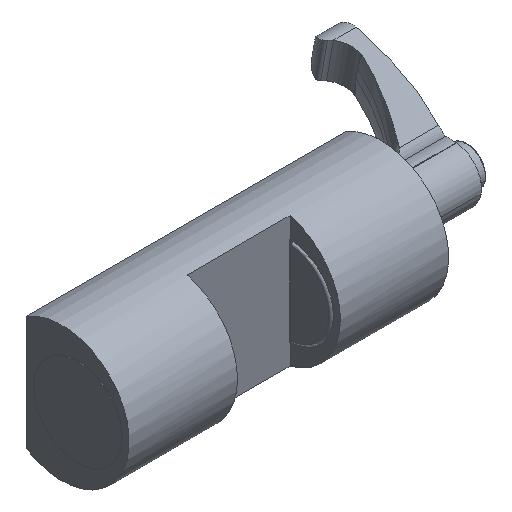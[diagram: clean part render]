
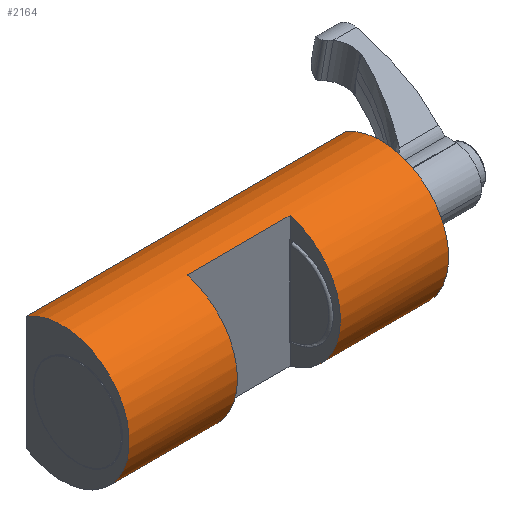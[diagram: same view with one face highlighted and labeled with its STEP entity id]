
A CAD part, isometric view. The second image highlights one B-rep face of the part: STEP entity #2164.
In plain terms, the highlighted cylindrical face has radius 19 mm (diameter 38 mm), a partial arc.
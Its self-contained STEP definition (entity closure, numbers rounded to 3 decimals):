
#1=CARTESIAN_POINT('',(-45.,4.5,0.));
#2=DIRECTION('',(1.,0.,0.));
#3=DIRECTION('',(0.,0.526,0.85));
#4=AXIS2_PLACEMENT_3D('',#1,#2,#3);
#20=DIRECTION('',(1.,0.,0.));
#21=VECTOR('',#20,90.);
#22=CARTESIAN_POINT('',(-45.,14.5,16.155));
#23=LINE('',#22,#21);
#24=CARTESIAN_POINT('',(-14.5,4.5,0.));
#25=DIRECTION('',(1.,0.,0.));
#26=DIRECTION('',(0.,-0.253,0.968));
#27=AXIS2_PLACEMENT_3D('',#24,#25,#26);
#29=DIRECTION('',(1.,0.,0.));
#30=VECTOR('',#29,29.);
#31=CARTESIAN_POINT('',(-14.5,-0.3,-18.384));
#32=LINE('',#31,#30);
#33=CARTESIAN_POINT('',(14.5,4.5,0.));
#34=DIRECTION('',(1.,0.,0.));
#35=DIRECTION('',(0.,-0.253,0.968));
#36=AXIS2_PLACEMENT_3D('',#33,#34,#35);
#38=DIRECTION('',(-1.,0.,0.));
#39=VECTOR('',#38,29.);
#40=CARTESIAN_POINT('',(14.5,-0.3,18.384));
#41=LINE('',#40,#39);
#42=DIRECTION('',(1.,0.,0.));
#43=VECTOR('',#42,90.);
#44=CARTESIAN_POINT('',(-45.,14.5,-16.155));
#45=LINE('',#44,#43);
#86=CARTESIAN_POINT('',(45.,4.5,0.));
#87=DIRECTION('',(1.,0.,0.));
#88=DIRECTION('',(0.,0.526,0.85));
#89=AXIS2_PLACEMENT_3D('',#86,#87,#88);
#1744=CARTESIAN_POINT('',(-45.,14.5,-16.155));
#1745=CARTESIAN_POINT('',(-45.,14.5,16.155));
#1746=VERTEX_POINT('',#1744);
#1747=VERTEX_POINT('',#1745);
#1748=CARTESIAN_POINT('',(45.,14.5,-16.155));
#1749=CARTESIAN_POINT('',(45.,14.5,16.155));
#1750=VERTEX_POINT('',#1748);
#1751=VERTEX_POINT('',#1749);
#1836=CARTESIAN_POINT('',(-14.5,-0.3,18.384));
#1837=CARTESIAN_POINT('',(-14.5,-0.3,-18.384));
#1838=VERTEX_POINT('',#1836);
#1839=VERTEX_POINT('',#1837);
#1840=CARTESIAN_POINT('',(14.5,-0.3,18.384));
#1841=CARTESIAN_POINT('',(14.5,-0.3,-18.384));
#1842=VERTEX_POINT('',#1840);
#1843=VERTEX_POINT('',#1841);
#2140=CARTESIAN_POINT('',(-45.,4.5,0.));
#2141=DIRECTION('',(1.,0.,0.));
#2142=DIRECTION('',(0.,-1.,0.));
#2143=AXIS2_PLACEMENT_3D('',#2140,#2141,#2142);
#2144=CYLINDRICAL_SURFACE('',#2143,19.);
#2145=ORIENTED_EDGE('',*,*,#2127,.F.);
#2147=ORIENTED_EDGE('',*,*,#2146,.T.);
#2149=ORIENTED_EDGE('',*,*,#2148,.T.);
#2151=ORIENTED_EDGE('',*,*,#2150,.F.);
#2152=EDGE_LOOP('',(#2145,#2147,#2149,#2151));
#2153=FACE_OUTER_BOUND('',#2152,.F.);
#2155=ORIENTED_EDGE('',*,*,#2154,.T.);
#2157=ORIENTED_EDGE('',*,*,#2156,.T.);
#2159=ORIENTED_EDGE('',*,*,#2158,.F.);
#2161=ORIENTED_EDGE('',*,*,#2160,.T.);
#2162=EDGE_LOOP('',(#2155,#2157,#2159,#2161));
#2163=FACE_BOUND('',#2162,.F.);
#2164=ADVANCED_FACE('',(#2153,#2163),#2144,.T.);
#5=CIRCLE('',#4,19.);
#28=CIRCLE('',#27,19.);
#37=CIRCLE('',#36,19.);
#90=CIRCLE('',#89,19.);
#2127=EDGE_CURVE('',#1747,#1746,#5,.T.);
#2146=EDGE_CURVE('',#1747,#1751,#23,.T.);
#2148=EDGE_CURVE('',#1751,#1750,#90,.T.);
#2150=EDGE_CURVE('',#1746,#1750,#45,.T.);
#2154=EDGE_CURVE('',#1838,#1839,#28,.T.);
#2156=EDGE_CURVE('',#1839,#1843,#32,.T.);
#2158=EDGE_CURVE('',#1842,#1843,#37,.T.);
#2160=EDGE_CURVE('',#1842,#1838,#41,.T.);
